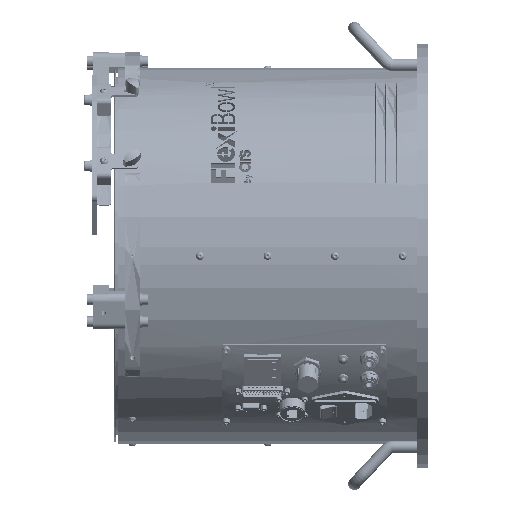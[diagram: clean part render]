
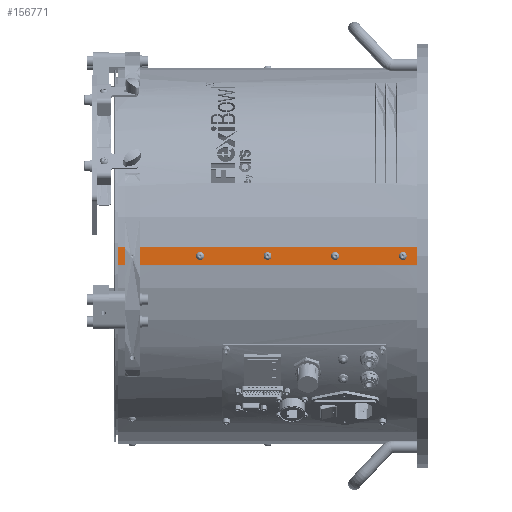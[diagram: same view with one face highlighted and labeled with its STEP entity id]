
A CAD part, left-side view. The second image highlights one B-rep face of the part: STEP entity #156771.
In plain terms, the highlighted planar face has unit normal (-1, 0, 0) as drawn and (0.024, -1, 0) by its records, which use the part's own axes.
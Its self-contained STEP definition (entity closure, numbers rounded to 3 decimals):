
#227 = CIRCLE ( 'NONE', #63584, 2.5 ) ;
#2679 = ORIENTED_EDGE ( 'NONE', *, *, #152678, .T. ) ;
#7562 = EDGE_LOOP ( 'NONE', ( #140222, #163881 ) ) ;
#8522 = EDGE_CURVE ( 'NONE', #202353, #29158, #275767, .T. ) ;
#11266 = DIRECTION ( 'NONE',  ( -1., -0.024, 0. ) ) ;
#11931 = DIRECTION ( 'NONE',  ( -0.024, 1., 0. ) ) ;
#14419 = CARTESIAN_POINT ( 'NONE',  ( 0.012, -421.119, 272. ) ) ;
#17117 = FACE_BOUND ( 'NONE', #7562, .T. ) ;
#18528 = DIRECTION ( 'NONE',  ( -0.024, 1., 0. ) ) ;
#22023 = AXIS2_PLACEMENT_3D ( 'NONE', #72549, #28604, #115143 ) ;
#25430 = CARTESIAN_POINT ( 'NONE',  ( 2.511, -421.059, 78.5 ) ) ;
#26385 = CARTESIAN_POINT ( 'NONE',  ( 0.012, -421.119, 143. ) ) ;
#27071 = CARTESIAN_POINT ( 'NONE',  ( 9.009, -420.905, 0. ) ) ;
#27715 = VERTEX_POINT ( 'NONE', #27071 ) ;
#28604 = DIRECTION ( 'NONE',  ( -0.024, 1., 0. ) ) ;
#29158 = VERTEX_POINT ( 'NONE', #97537 ) ;
#31571 = VECTOR ( 'NONE', #11266, 1000. ) ;
#33058 = DIRECTION ( 'NONE',  ( 1., 0.024, 0. ) ) ;
#34460 = EDGE_LOOP ( 'NONE', ( #246484, #163310 ) ) ;
#34480 = VERTEX_POINT ( 'NONE', #196440 ) ;
#35143 = DIRECTION ( 'NONE',  ( -1., -0.024, 0. ) ) ;
#36713 = DIRECTION ( 'NONE',  ( -1., -0.024, 0. ) ) ;
#36931 = AXIS2_PLACEMENT_3D ( 'NONE', #100352, #202702, #35143 ) ;
#40120 = AXIS2_PLACEMENT_3D ( 'NONE', #84076, #122422, #254409 ) ;
#51828 = CIRCLE ( 'NONE', #88162, 2.5 ) ;
#53058 = CARTESIAN_POINT ( 'NONE',  ( 0.012, -421.119, 272. ) ) ;
#55876 = EDGE_CURVE ( 'NONE', #144949, #64714, #227, .T. ) ;
#55984 = AXIS2_PLACEMENT_3D ( 'NONE', #120703, #18528, #229952 ) ;
#56828 = FACE_BOUND ( 'NONE', #130141, .T. ) ;
#59155 = VERTEX_POINT ( 'NONE', #169642 ) ;
#60081 = CARTESIAN_POINT ( 'NONE',  ( -2.488, -421.178, 207.5 ) ) ;
#60834 = CARTESIAN_POINT ( 'NONE',  ( 9.009, -420.905, 286. ) ) ;
#63584 = AXIS2_PLACEMENT_3D ( 'NONE', #93331, #114667, #235776 ) ;
#64714 = VERTEX_POINT ( 'NONE', #72739 ) ;
#66023 = CARTESIAN_POINT ( 'NONE',  ( 0.012, -421.119, 143. ) ) ;
#67501 = DIRECTION ( 'NONE',  ( -0.024, 1., 0. ) ) ;
#67526 = CIRCLE ( 'NONE', #103749, 2.5 ) ;
#68854 = DIRECTION ( 'NONE',  ( -0.024, 1., 0. ) ) ;
#72549 = CARTESIAN_POINT ( 'NONE',  ( 0.012, -421.119, 78.5 ) ) ;
#72739 = CARTESIAN_POINT ( 'NONE',  ( -2.488, -421.178, 14. ) ) ;
#79973 = CARTESIAN_POINT ( 'NONE',  ( 0.012, -421.119, 14. ) ) ;
#80951 = FACE_BOUND ( 'NONE', #34460, .T. ) ;
#84076 = CARTESIAN_POINT ( 'NONE',  ( 0.012, -421.119, 207.5 ) ) ;
#85252 = DIRECTION ( 'NONE',  ( -1., -0.024, 0. ) ) ;
#86423 = ORIENTED_EDGE ( 'NONE', *, *, #164465, .T. ) ;
#87593 = ORIENTED_EDGE ( 'NONE', *, *, #231860, .F. ) ;
#88162 = AXIS2_PLACEMENT_3D ( 'NONE', #66023, #68854, #280426 ) ;
#88493 = EDGE_CURVE ( 'NONE', #183771, #128930, #67526, .T. ) ;
#91358 = LINE ( 'NONE', #220466, #261555 ) ;
#93331 = CARTESIAN_POINT ( 'NONE',  ( 0.012, -421.119, 14. ) ) ;
#95434 = EDGE_CURVE ( 'NONE', #27715, #170988, #208543, .T. ) ;
#95970 = ORIENTED_EDGE ( 'NONE', *, *, #8522, .T. ) ;
#97537 = CARTESIAN_POINT ( 'NONE',  ( 2.511, -421.059, 207.5 ) ) ;
#100274 = VERTEX_POINT ( 'NONE', #260110 ) ;
#100352 = CARTESIAN_POINT ( 'NONE',  ( 0.012, -421.119, 207.5 ) ) ;
#100842 = EDGE_CURVE ( 'NONE', #134100, #151666, #220155, .T. ) ;
#103749 = AXIS2_PLACEMENT_3D ( 'NONE', #14419, #187436, #85252 ) ;
#103944 = CARTESIAN_POINT ( 'NONE',  ( 2.511, -421.059, 272. ) ) ;
#112232 = EDGE_CURVE ( 'NONE', #128930, #183771, #240534, .T. ) ;
#112521 = CIRCLE ( 'NONE', #22023, 2.5 ) ;
#114667 = DIRECTION ( 'NONE',  ( -0.024, 1., 0. ) ) ;
#115143 = DIRECTION ( 'NONE',  ( -1., -0.024, 0. ) ) ;
#118349 = DIRECTION ( 'NONE',  ( -1., -0.024, 0. ) ) ;
#118541 = CIRCLE ( 'NONE', #36931, 2.5 ) ;
#119839 = AXIS2_PLACEMENT_3D ( 'NONE', #187105, #205671, #36713 ) ;
#120703 = CARTESIAN_POINT ( 'NONE',  ( 0.014, -421.119, 143. ) ) ;
#122353 = ORIENTED_EDGE ( 'NONE', *, *, #95434, .F. ) ;
#122387 = CARTESIAN_POINT ( 'NONE',  ( 0.014, -421.119, 286. ) ) ;
#122422 = DIRECTION ( 'NONE',  ( -0.024, 1., 0. ) ) ;
#128930 = VERTEX_POINT ( 'NONE', #103944 ) ;
#130141 = EDGE_LOOP ( 'NONE', ( #2679, #95970 ) ) ;
#134100 = VERTEX_POINT ( 'NONE', #248939 ) ;
#135330 = DIRECTION ( 'NONE',  ( 0., 0., -1. ) ) ;
#140222 = ORIENTED_EDGE ( 'NONE', *, *, #230670, .T. ) ;
#140860 = LINE ( 'NONE', #122387, #145537 ) ;
#143347 = FACE_OUTER_BOUND ( 'NONE', #169541, .T. ) ;
#144949 = VERTEX_POINT ( 'NONE', #183532 ) ;
#145404 = CARTESIAN_POINT ( 'NONE',  ( -2.488, -421.178, 272. ) ) ;
#145537 = VECTOR ( 'NONE', #33058, 1000. ) ;
#150329 = ORIENTED_EDGE ( 'NONE', *, *, #247756, .T. ) ;
#151666 = VERTEX_POINT ( 'NONE', #25430 ) ;
#152678 = EDGE_CURVE ( 'NONE', #29158, #202353, #118541, .T. ) ;
#154191 = ORIENTED_EDGE ( 'NONE', *, *, #251315, .T. ) ;
#155473 = DIRECTION ( 'NONE',  ( -1., -0.024, 0. ) ) ;
#156771 = ADVANCED_FACE ( 'NONE', ( #80951, #17117, #56828, #170240, #254088, #143347 ), #273992, .F. ) ;
#161443 = CARTESIAN_POINT ( 'NONE',  ( -8.982, -421.333, 286. ) ) ;
#162538 = ORIENTED_EDGE ( 'NONE', *, *, #100842, .T. ) ;
#163310 = ORIENTED_EDGE ( 'NONE', *, *, #222630, .T. ) ;
#163881 = ORIENTED_EDGE ( 'NONE', *, *, #221262, .T. ) ;
#164465 = EDGE_CURVE ( 'NONE', #253381, #170988, #91358, .T. ) ;
#165271 = CIRCLE ( 'NONE', #201613, 2.5 ) ;
#167452 = AXIS2_PLACEMENT_3D ( 'NONE', #26385, #67501, #155473 ) ;
#168482 = ORIENTED_EDGE ( 'NONE', *, *, #88493, .T. ) ;
#169541 = EDGE_LOOP ( 'NONE', ( #87593, #86423, #122353, #154191 ) ) ;
#169642 = CARTESIAN_POINT ( 'NONE',  ( 2.511, -421.059, 143. ) ) ;
#170240 = FACE_BOUND ( 'NONE', #237980, .T. ) ;
#170988 = VERTEX_POINT ( 'NONE', #195198 ) ;
#183532 = CARTESIAN_POINT ( 'NONE',  ( 2.511, -421.059, 14. ) ) ;
#183771 = VERTEX_POINT ( 'NONE', #145404 ) ;
#187105 = CARTESIAN_POINT ( 'NONE',  ( 0.012, -421.119, 78.5 ) ) ;
#187436 = DIRECTION ( 'NONE',  ( -0.024, 1., 0. ) ) ;
#195198 = CARTESIAN_POINT ( 'NONE',  ( -8.982, -421.333, 0. ) ) ;
#196440 = CARTESIAN_POINT ( 'NONE',  ( 9.009, -420.905, 286. ) ) ;
#200805 = DIRECTION ( 'NONE',  ( -0.024, 1., 0. ) ) ;
#201613 = AXIS2_PLACEMENT_3D ( 'NONE', #79973, #11931, #247494 ) ;
#202353 = VERTEX_POINT ( 'NONE', #60081 ) ;
#202702 = DIRECTION ( 'NONE',  ( -0.024, 1., 0. ) ) ;
#204335 = CARTESIAN_POINT ( 'NONE',  ( 0.014, -421.119, 0. ) ) ;
#205671 = DIRECTION ( 'NONE',  ( -0.024, 1., 0. ) ) ;
#208543 = LINE ( 'NONE', #204335, #31571 ) ;
#220155 = CIRCLE ( 'NONE', #119839, 2.5 ) ;
#220466 = CARTESIAN_POINT ( 'NONE',  ( -8.982, -421.333, 0. ) ) ;
#221262 = EDGE_CURVE ( 'NONE', #100274, #59155, #51828, .T. ) ;
#222630 = EDGE_CURVE ( 'NONE', #64714, #144949, #165271, .T. ) ;
#229734 = LINE ( 'NONE', #60834, #249597 ) ;
#229952 = DIRECTION ( 'NONE',  ( -1., -0.024, 0. ) ) ;
#230670 = EDGE_CURVE ( 'NONE', #59155, #100274, #276367, .T. ) ;
#231860 = EDGE_CURVE ( 'NONE', #253381, #34480, #140860, .T. ) ;
#235776 = DIRECTION ( 'NONE',  ( -1., -0.024, 0. ) ) ;
#237980 = EDGE_LOOP ( 'NONE', ( #150329, #162538 ) ) ;
#240534 = CIRCLE ( 'NONE', #272355, 2.5 ) ;
#246484 = ORIENTED_EDGE ( 'NONE', *, *, #55876, .T. ) ;
#247494 = DIRECTION ( 'NONE',  ( -1., -0.024, 0. ) ) ;
#247756 = EDGE_CURVE ( 'NONE', #151666, #134100, #112521, .T. ) ;
#248939 = CARTESIAN_POINT ( 'NONE',  ( -2.488, -421.178, 78.5 ) ) ;
#249597 = VECTOR ( 'NONE', #258097, 1000. ) ;
#251315 = EDGE_CURVE ( 'NONE', #27715, #34480, #229734, .T. ) ;
#253381 = VERTEX_POINT ( 'NONE', #161443 ) ;
#254088 = FACE_BOUND ( 'NONE', #266591, .T. ) ;
#254409 = DIRECTION ( 'NONE',  ( -1., -0.024, 0. ) ) ;
#258097 = DIRECTION ( 'NONE',  ( 0., 0., 1. ) ) ;
#260110 = CARTESIAN_POINT ( 'NONE',  ( -2.488, -421.178, 143. ) ) ;
#261555 = VECTOR ( 'NONE', #135330, 1000. ) ;
#266591 = EDGE_LOOP ( 'NONE', ( #278118, #168482 ) ) ;
#272355 = AXIS2_PLACEMENT_3D ( 'NONE', #53058, #200805, #118349 ) ;
#273992 = PLANE ( 'NONE',  #55984 ) ;
#275767 = CIRCLE ( 'NONE', #40120, 2.5 ) ;
#276367 = CIRCLE ( 'NONE', #167452, 2.5 ) ;
#278118 = ORIENTED_EDGE ( 'NONE', *, *, #112232, .T. ) ;
#280426 = DIRECTION ( 'NONE',  ( -1., -0.024, 0. ) ) ;
